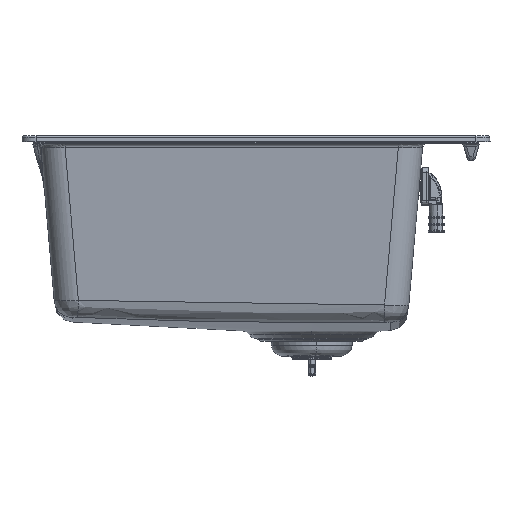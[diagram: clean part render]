
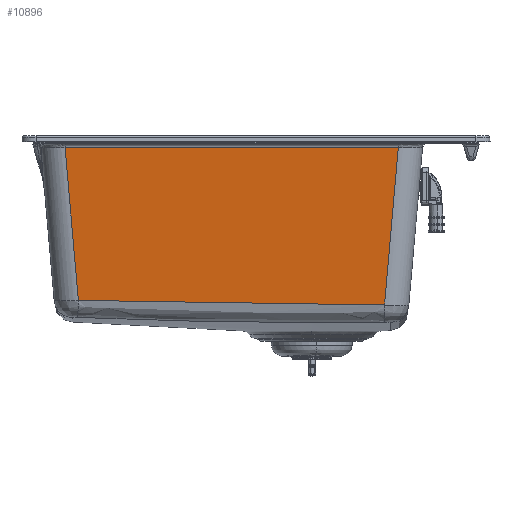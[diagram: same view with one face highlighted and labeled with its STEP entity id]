
A CAD part, front view. The second image highlights one B-rep face of the part: STEP entity #10896.
In plain terms, the highlighted planar face has unit normal (0, -0.996, -0.087).
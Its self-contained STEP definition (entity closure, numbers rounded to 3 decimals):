
#10896=ADVANCED_FACE('',(#14516),#61496,.T.);
#14516=FACE_OUTER_BOUND('',#18282,.T.);
#18282=EDGE_LOOP('',(#32680,#32681,#32682,#32683));
#32680=ORIENTED_EDGE('',*,*,#45050,.T.);
#32681=ORIENTED_EDGE('',*,*,#45060,.T.);
#32682=ORIENTED_EDGE('',*,*,#45057,.T.);
#32683=ORIENTED_EDGE('',*,*,#45054,.F.);
#45050=EDGE_CURVE('',#58544,#58531,#52555,.T.);
#45054=EDGE_CURVE('',#58544,#58552,#52557,.T.);
#45057=EDGE_CURVE('',#58557,#58552,#52559,.T.);
#45060=EDGE_CURVE('',#58531,#58557,#52561,.T.);
#52555=B_SPLINE_CURVE_WITH_KNOTS('',3,(#129826,#129827,#129828,#129829,
#129830,#129831),.UNSPECIFIED.,.F.,.F.,(4,1,1,4),(-327.167,-140.214,
-46.738,0.),.UNSPECIFIED.);
#52557=B_SPLINE_CURVE_WITH_KNOTS('',1,(#129840,#129841),.UNSPECIFIED.,.F.,
 .F.,(2,2),(0.,164.384),.UNSPECIFIED.);
#52559=B_SPLINE_CURVE_WITH_KNOTS('',1,(#129849,#129850),.UNSPECIFIED.,.F.,
 .F.,(2,2),(0.,356.045),.UNSPECIFIED.);
#52561=B_SPLINE_CURVE_WITH_KNOTS('',1,(#129858,#129859),.UNSPECIFIED.,.F.,
 .F.,(2,2),(-169.35,0.),.UNSPECIFIED.);
#58531=VERTEX_POINT('',#128286);
#58544=VERTEX_POINT('',#128299);
#58552=VERTEX_POINT('',#128307);
#58557=VERTEX_POINT('',#128312);
#61496=PLANE('',#65513);
#65513=AXIS2_PLACEMENT_3D('',#125016,#72584,$);
#72584=DIRECTION('',(0.,-0.996,-0.087));
#125016=CARTESIAN_POINT('',(175.747,-276.413,4.454));
#128286=CARTESIAN_POINT('',(125.319,-260.22,-180.633));
#128299=CARTESIAN_POINT('',(-201.75,-260.651,-175.704));
#128307=CARTESIAN_POINT('',(-216.023,-274.924,-12.564));
#128312=CARTESIAN_POINT('',(140.023,-274.924,-12.564));
#129826=CARTESIAN_POINT('',(-201.75,-260.651,-175.704));
#129827=CARTESIAN_POINT('',(-139.48,-260.445,-178.06));
#129828=CARTESIAN_POINT('',(-46.048,-260.186,-181.022));
#129829=CARTESIAN_POINT('',(63.01,-260.148,-181.447));
#129830=CARTESIAN_POINT('',(109.742,-260.198,-180.885));
#129831=CARTESIAN_POINT('',(125.319,-260.22,-180.633));
#129840=CARTESIAN_POINT('',(-201.75,-260.651,-175.704));
#129841=CARTESIAN_POINT('',(-216.023,-274.924,-12.564));
#129849=CARTESIAN_POINT('',(140.023,-274.924,-12.564));
#129850=CARTESIAN_POINT('',(-216.023,-274.924,-12.564));
#129858=CARTESIAN_POINT('',(125.319,-260.22,-180.633));
#129859=CARTESIAN_POINT('',(140.023,-274.924,-12.564));
